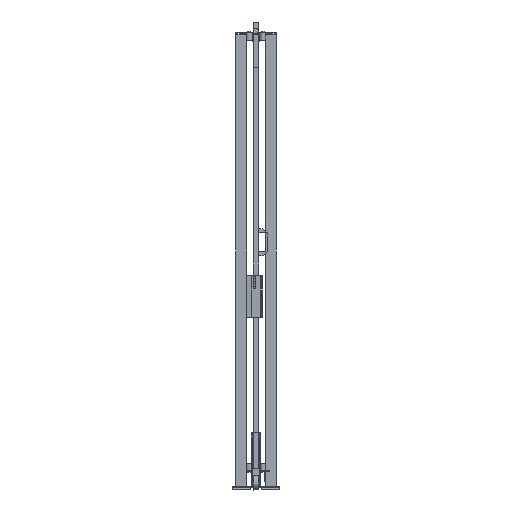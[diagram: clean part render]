
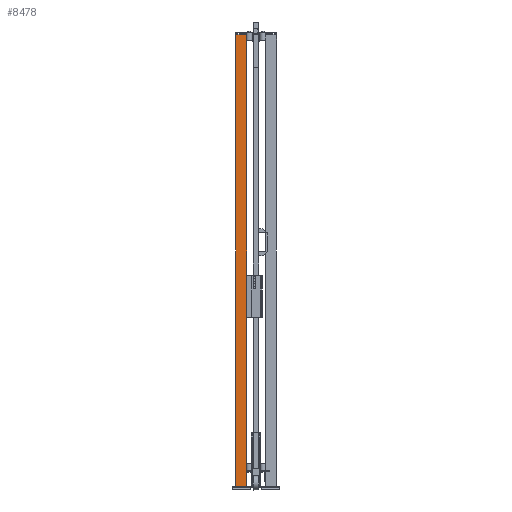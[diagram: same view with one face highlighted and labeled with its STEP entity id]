
A CAD part, left-side view. The second image highlights one B-rep face of the part: STEP entity #8478.
In plain terms, the highlighted planar face has unit normal (-1, 0, 0) as drawn and (0, 1, 0) by its records, which use the part's own axes.
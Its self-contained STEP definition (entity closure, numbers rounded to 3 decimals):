
#1111=FACE_OUTER_BOUND('',#1542,.T.);
#1542=EDGE_LOOP('',(#6345,#6346,#6347,#6348));
#2291=LINE('',#12818,#3431);
#2297=LINE('',#12830,#3437);
#2300=LINE('',#12835,#3440);
#2301=LINE('',#12837,#3441);
#3431=VECTOR('',#10005,1.);
#3437=VECTOR('',#10013,1.);
#3440=VECTOR('',#10020,1.);
#3441=VECTOR('',#10023,1.);
#4302=VERTEX_POINT('',#12815);
#4303=VERTEX_POINT('',#12817);
#4305=VERTEX_POINT('',#12823);
#4308=VERTEX_POINT('',#12828);
#5104=EDGE_CURVE('',#4302,#4303,#2291,.T.);
#5110=EDGE_CURVE('',#4308,#4305,#2297,.T.);
#5113=EDGE_CURVE('',#4303,#4308,#2300,.T.);
#5114=EDGE_CURVE('',#4302,#4305,#2301,.T.);
#6345=ORIENTED_EDGE('',*,*,#5114,.T.);
#6346=ORIENTED_EDGE('',*,*,#5110,.F.);
#6347=ORIENTED_EDGE('',*,*,#5113,.F.);
#6348=ORIENTED_EDGE('',*,*,#5104,.F.);
#8103=PLANE('',#8965);
#8478=ADVANCED_FACE('',(#1111),#8103,.F.);
#8965=AXIS2_PLACEMENT_3D('',#12836,#10021,#10022);
#10005=DIRECTION('',(-1.,0.,0.));
#10013=DIRECTION('',(1.,0.,0.));
#10020=DIRECTION('',(0.,0.,-1.));
#10021=DIRECTION('center_axis',(0.,-1.,0.));
#10022=DIRECTION('ref_axis',(0.,0.,-1.));
#10023=DIRECTION('',(0.,0.,-1.));
#12815=CARTESIAN_POINT('',(30.,30.,2520.));
#12817=CARTESIAN_POINT('',(-30.,30.,2520.));
#12818=CARTESIAN_POINT('',(0.,30.,2520.));
#12823=CARTESIAN_POINT('',(30.,30.,20.));
#12828=CARTESIAN_POINT('',(-30.,30.,20.));
#12830=CARTESIAN_POINT('',(0.,30.,20.));
#12835=CARTESIAN_POINT('',(-30.,30.,1270.));
#12836=CARTESIAN_POINT('Origin',(0.,30.,
1270.));
#12837=CARTESIAN_POINT('',(30.,30.,1270.));
